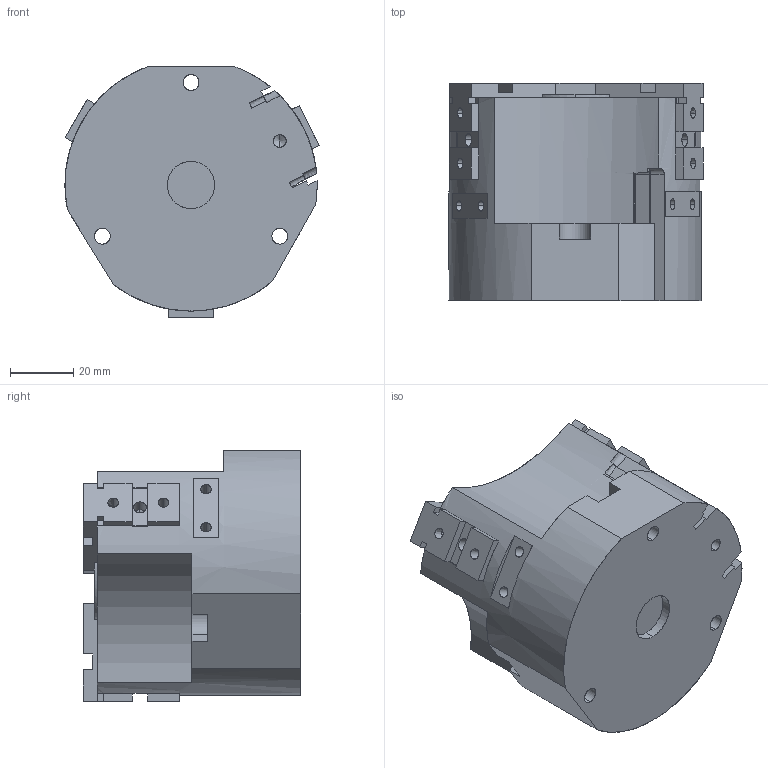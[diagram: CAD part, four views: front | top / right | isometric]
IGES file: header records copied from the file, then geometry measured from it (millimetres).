
Start section: SolidWorks IGES file using analytic representation for surfaces
Global section: file name: C:\Documents and Settings\SGA\Bureau\ROMAIN\OPE 80-3 S\OPE 80-3 S fermé.IGS; native system: SolidWorks 2010; preprocessor: SolidWorks 2010; author: SGA; date: 110928.093534; units: millimetre
Bounding box: 80.6 x 69 x 79.46 mm (x, y, z)
Surface area: 49102.9 mm2 (no closed solid volume)
Topology: 0 solids, 0 shells, 596 faces, 6854 edges, 6814 vertices
Faces by surface type: bspline 473, revolution 123
